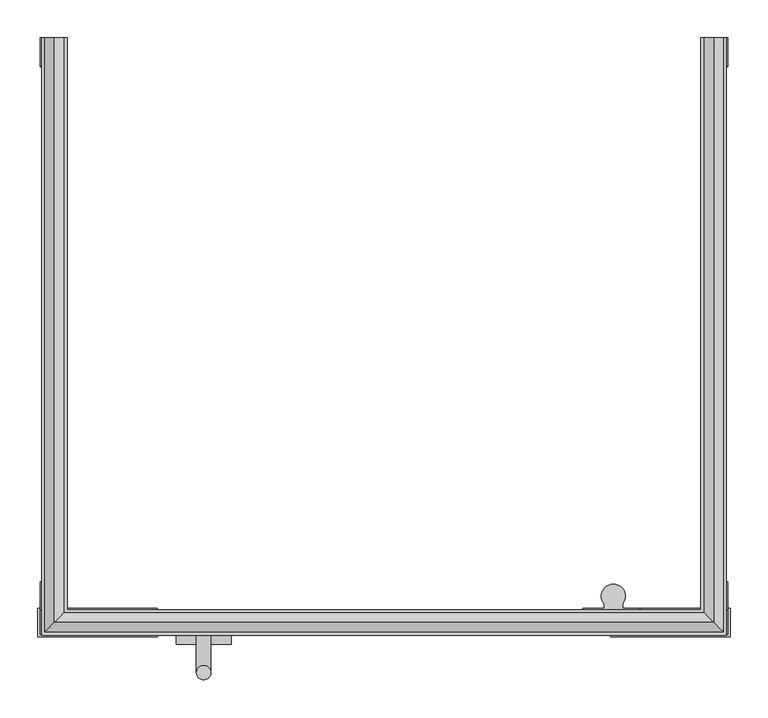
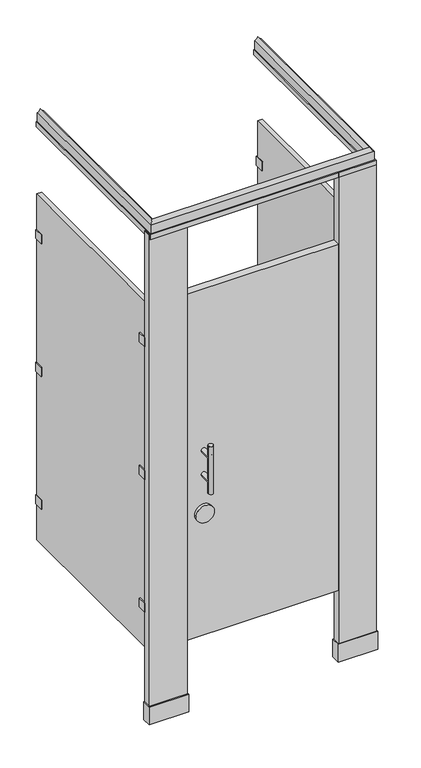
"""IFC4 building model written with IfcOpenShell, lengths in millimetres: proxy geometry, Toilet-Partition_Ironwood-Mfg_High-Pressure-Laminate : High Pressure Laminate - Headrail Braced - Flat Panel Door."""

from ifc_helpers import new_model, si_unit, point, frame, frame_2d, origin, origin_with_axes, place, context, project, spatial, polyline, circle_curve, ellipse_curve, trimmed, segment, composite_curve, outline, extrude, source, transform, mapped, element, save
from ifc_brep_helpers import plane_surface, cylinder_surface, revolved_surface, advanced_brep


def specialty_equipment_37ad36b8(model_context):
    return source(origin(), model_context, "Body", "SolidModel", [
        extrude(outline(polyline([(701.675, -758.825), (701.675, -796.925), (542.925, -796.925), (542.925, -758.825), (701.675, -758.825)])), origin_with_axes(), (0.0, 0.0, 1.0), 76.2),
        extrude(outline(polyline([(698.5, -762.0), (698.5, -793.75), (546.1, -793.75), (546.1, -762.0), (698.5, -762.0)])), origin_with_axes(), (0.0, 0.0, 1.0), 2082.8),
        extrude(outline(polyline([(-219.075, -758.825), (-60.325, -758.825), (-60.325, -796.925), (-219.075, -796.925), (-219.075, -758.825)])), origin_with_axes(), (0.0, 0.0, 1.0), 76.2),
        extrude(outline(polyline([(-215.9, -762.0), (-63.5, -762.0), (-63.5, -793.75), (-215.9, -793.75), (-215.9, -762.0)])), origin_with_axes(), (0.0, 0.0, 1.0), 2082.8),
        extrude(outline(polyline([(546.1, -793.75), (-63.5, -793.75), (-63.5, -762.0), (546.1, -762.0), (546.1, -793.75)])), frame((0.0, 0.0, 304.8), z_axis=(0.0, 0.0, 1.0), x_axis=(1.0, 0.0, 0.0)), (0.0, 0.0, 1.0), 1473.2),
        extrude(outline(composite_curve([segment(trimmed(circle_curve(frame_2d((827.0875, 1.5875)), 36.5125), [point((827.0875, -34.925))], [point((827.0875, 38.1))], False, "CARTESIAN"), True, "CONTINUOUS"), segment(trimmed(circle_curve(frame_2d((827.0875, 1.5875)), 36.5125), [point((827.0875, 38.1))], [point((827.0875, -34.925))], False, "CARTESIAN"), True, "CONTINUOUS")], self_intersect=False)), frame((0.0, -806.45, 0.0), z_axis=(0.0, 1.0, 0.0), x_axis=(0.0, 0.0, 1.0)), (0.0, 0.0, 1.0), 12.7),
        advanced_brep(
        [(-7.9375, -793.75, 1092.2), (11.1125, -793.75, 1092.2), (-7.9375, -793.75, 990.6), (11.1125, -793.75, 990.6), (11.1125, -844.55, 1092.2), (-7.9375, -844.55, 1092.2), (11.1125, -844.55, 990.6), (-7.9375, -844.55, 990.6), (-7.9375, -844.55, 1143.0), (11.1125, -844.55, 1143.0), (-7.9375, -844.55, 939.8), (11.1125, -844.55, 939.8)],
        [
            (0, 1, circle_curve(frame((1.5875, -793.75, 1092.2), z_axis=(0.0, 1.0, 0.0), x_axis=(1.0, 0.0, 0.0)), 9.525)),
            (1, 0, circle_curve(frame((1.5875, -793.75, 1092.2), z_axis=(0.0, 1.0, 0.0), x_axis=(1.0, 0.0, 0.0)), 9.525)),
            (2, 3, circle_curve(frame((1.5875, -793.75, 990.6), z_axis=(0.0, 1.0, 0.0), x_axis=(1.0, 0.0, 0.0)), 9.525)),
            (3, 2, circle_curve(frame((1.5875, -793.75, 990.6), z_axis=(0.0, 1.0, 0.0), x_axis=(1.0, 0.0, 0.0)), 9.525)),
            (1, 4),
            (4, 5, ellipse_curve(frame((1.5875, -844.55, 1092.2), z_axis=(0.0, 0.7071067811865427, 0.7071067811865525), x_axis=(0.0, -0.7071067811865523, 0.7071067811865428)), 13.4703842, 9.525)),
            (5, 0),
            (5, 4, ellipse_curve(frame((1.5875, -844.55, 1092.2), z_axis=(0.0, 0.7071067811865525, -0.7071067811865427), x_axis=(0.0, -0.7071067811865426, -0.7071067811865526)), 13.4703842, 9.525)),
            (3, 6),
            (6, 7, ellipse_curve(frame((1.5875, -844.55, 990.6), z_axis=(0.0, 0.7071067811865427, 0.7071067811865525), x_axis=(0.0, -0.7071067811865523, 0.7071067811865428)), 13.4703842, 9.525)),
            (7, 2),
            (7, 6, ellipse_curve(frame((1.5875, -844.55, 990.6), z_axis=(0.0, 0.7071067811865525, -0.7071067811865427), x_axis=(0.0, -0.7071067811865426, -0.7071067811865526)), 13.4703842, 9.525)),
            (8, 9, circle_curve(frame((1.5875, -844.55, 1143.0), z_axis=(0.0, 0.0, 1.0), x_axis=(1.0, 0.0, 0.0)), 9.525)),
            (9, 8, circle_curve(frame((1.5875, -844.55, 1143.0), z_axis=(0.0, 0.0, 1.0), x_axis=(1.0, 0.0, 0.0)), 9.525)),
            (10, 11, circle_curve(frame((1.5875, -844.55, 939.8), z_axis=(0.0, 0.0, -1.0), x_axis=(1.0, 0.0, 0.0)), 9.525)),
            (11, 10, circle_curve(frame((1.5875, -844.55, 939.8), z_axis=(0.0, 0.0, -1.0), x_axis=(1.0, 0.0, 0.0)), 9.525)),
            (8, 5),
            (5, 7),
            (7, 10),
            (11, 6),
            (6, 4),
            (4, 9),
        ],
        [
            plane_surface(frame((11.1125, -793.75, 1092.2), z_axis=(0.0, 1.0, 0.0), x_axis=(0.0, 0.0, -1.0))),
            cylinder_surface(frame((1.5875, -793.75, 1092.2), z_axis=(0.0, -1.0, 0.0), x_axis=(1.0, 0.0, 0.0)), 9.525),
            cylinder_surface(frame((1.5875, -793.75, 990.6), z_axis=(0.0, -1.0, 0.0), x_axis=(1.0, 0.0, 0.0)), 9.525),
            plane_surface(frame((11.1125, -844.55, 1143.0), z_axis=(0.0, 0.0, 1.0), x_axis=(0.0, 1.0, 0.0))),
            plane_surface(frame((11.1125, -844.55, 939.8), z_axis=(0.0, 0.0, -1.0), x_axis=(0.0, -1.0, 0.0))),
            cylinder_surface(frame((1.5875, -844.55, 939.8), z_axis=(0.0, 0.0, 1.0), x_axis=(1.0, 0.0, 0.0)), 9.525),
        ],
        [
            (0, [[1, 2]]),
            (0, [[3, 4]]),
            (1, [[-2, 5, 6, 7]]),
            (1, [[-1, -7, 8, -5]]),
            (2, [[-4, 9, 10, 11]]),
            (2, [[-3, -11, 12, -9]]),
            (3, [[13, 14]]),
            (4, [[15, 16]]),
            (5, [[-13, 17, 18, 19, -16, 20, 21, 22]]),
            (5, [[-14, -22, -8, -17]]),
            (5, [[-15, -19, -10, -20]]),
            (5, [[-18, -6, -21, -12]]),
        ],
    ),
        extrude(outline(composite_curve([segment(polyline([(581.3737081, -762.0), (505.1737081, -762.0), (505.1737081, -758.825), (533.7487081, -758.825), (533.7487081, -752.9581331)]), True, "CONTINUOUS"), segment(trimmed(circle_curve(frame_2d((546.1, -742.8902139)), 15.9347861), [point((533.7487081, -752.9581331))], [point((558.4512919, -752.9581331))], False, "CARTESIAN"), True, "CONTINUOUS"), segment(polyline([(558.4512919, -752.9581331), (558.4512919, -758.825), (581.3737081, -758.825), (581.3737081, -762.0)]), True, "CONTINUOUS")], self_intersect=False)), frame((0.0, 0.0, 1574.8), z_axis=(0.0, 0.0, 1.0), x_axis=(1.0, 0.0, 0.0)), (0.0, 0.0, 1.0), 63.5),
        extrude(outline(composite_curve([segment(polyline([(581.3737081, -762.0), (505.1737081, -762.0), (505.1737081, -758.825), (533.7487081, -758.825), (533.7487081, -752.9581331)]), True, "CONTINUOUS"), segment(trimmed(circle_curve(frame_2d((546.1, -742.8902139)), 15.9347861), [point((533.7487081, -752.9581331))], [point((558.4512919, -752.9581331))], False, "CARTESIAN"), True, "CONTINUOUS"), segment(polyline([(558.4512919, -752.9581331), (558.4512919, -758.825), (581.3737081, -758.825), (581.3737081, -762.0)]), True, "CONTINUOUS")], self_intersect=False)), frame((0.0, 0.0, 1009.6500001), z_axis=(0.0, 0.0, 1.0), x_axis=(1.0, 0.0, 0.0)), (0.0, 0.0, 1.0), 63.5),
        extrude(outline(composite_curve([segment(polyline([(581.3737081, -762.0), (505.1737081, -762.0), (505.1737081, -758.825), (533.7487081, -758.825), (533.7487081, -752.9581331)]), True, "CONTINUOUS"), segment(trimmed(circle_curve(frame_2d((546.1, -742.8902139)), 15.9347861), [point((533.7487081, -752.9581331))], [point((558.4512919, -752.9581331))], False, "CARTESIAN"), True, "CONTINUOUS"), segment(polyline([(558.4512919, -752.9581331), (558.4512919, -758.825), (581.3737081, -758.825), (581.3737081, -762.0)]), True, "CONTINUOUS")], self_intersect=False)), frame((0.0, 0.0, 444.5), z_axis=(0.0, 0.0, 1.0), x_axis=(1.0, 0.0, 0.0)), (0.0, 0.0, 1.0), 63.5),
        extrude(outline(polyline([(676.148, -723.9), (676.148, -758.825), (695.198, -758.825), (695.198, -723.9), (698.373, -723.9), (698.373, -762.0), (672.973, -762.0), (672.973, -723.9), (676.148, -723.9)])), frame((0.0, 0.0, 1587.8188137), z_axis=(0.0, 0.0, 1.0), x_axis=(1.0, 0.0, 0.0)), (0.0, 0.0, 1.0), 38.1),
        extrude(outline(polyline([(676.148, -38.1), (672.973, -38.1), (672.973, 0.0), (698.373, 0.0), (698.373, -38.1), (695.198, -38.1), (695.198, -3.175), (676.148, -3.175), (676.148, -38.1)])), frame((0.0, 0.0, 1587.8188137), z_axis=(0.0, 0.0, 1.0), x_axis=(1.0, 0.0, 0.0)), (0.0, 0.0, 1.0), 38.1),
        extrude(outline(polyline([(676.148, -723.9), (676.148, -758.825), (695.198, -758.825), (695.198, -723.9), (698.373, -723.9), (698.373, -762.0), (672.973, -762.0), (672.973, -723.9), (676.148, -723.9)])), frame((0.0, 0.0, 1022.35), z_axis=(0.0, 0.0, 1.0), x_axis=(1.0, 0.0, 0.0)), (0.0, 0.0, 1.0), 38.1),
        extrude(outline(polyline([(676.148, -38.1), (672.973, -38.1), (672.973, 0.0), (698.373, 0.0), (698.373, -38.1), (695.198, -38.1), (695.198, -3.175), (676.148, -3.175), (676.148, -38.1)])), frame((0.0, 0.0, 1022.35), z_axis=(0.0, 0.0, 1.0), x_axis=(1.0, 0.0, 0.0)), (0.0, 0.0, 1.0), 38.1),
        extrude(outline(polyline([(676.148, -723.9), (676.148, -758.825), (695.198, -758.825), (695.198, -723.9), (698.373, -723.9), (698.373, -762.0), (672.973, -762.0), (672.973, -723.9), (676.148, -723.9)])), frame((0.0, 0.0, 457.2), z_axis=(0.0, 0.0, 1.0), x_axis=(1.0, 0.0, 0.0)), (0.0, 0.0, 1.0), 38.1),
        extrude(outline(polyline([(676.148, -38.1), (672.973, -38.1), (672.973, 0.0), (698.373, 0.0), (698.373, -38.1), (695.198, -38.1), (695.198, -3.175), (676.148, -3.175), (676.148, -38.1)])), frame((0.0, 0.0, 457.2), z_axis=(0.0, 0.0, 1.0), x_axis=(1.0, 0.0, 0.0)), (0.0, 0.0, 1.0), 38.1),
        extrude(outline(polyline([(-212.598, -723.9), (-212.598, -758.825), (-193.548, -758.825), (-193.548, -723.9), (-190.373, -723.9), (-190.373, -762.0), (-215.773, -762.0), (-215.773, -723.9), (-212.598, -723.9)])), frame((0.0, 0.0, 1587.8188137), z_axis=(0.0, 0.0, 1.0), x_axis=(1.0, 0.0, 0.0)), (0.0, 0.0, 1.0), 38.1),
        extrude(outline(polyline([(-212.598, -38.1), (-215.773, -38.1), (-215.773, 0.0), (-190.373, 0.0), (-190.373, -38.1), (-193.548, -38.1), (-193.548, -3.175), (-212.598, -3.175), (-212.598, -38.1)])), frame((0.0, 0.0, 1587.8188137), z_axis=(0.0, 0.0, 1.0), x_axis=(1.0, 0.0, 0.0)), (0.0, 0.0, 1.0), 38.1),
        extrude(outline(polyline([(-212.598, -723.9), (-212.598, -758.825), (-193.548, -758.825), (-193.548, -723.9), (-190.373, -723.9), (-190.373, -762.0), (-215.773, -762.0), (-215.773, -723.9), (-212.598, -723.9)])), frame((0.0, 0.0, 1022.35), z_axis=(0.0, 0.0, 1.0), x_axis=(1.0, 0.0, 0.0)), (0.0, 0.0, 1.0), 38.1),
        extrude(outline(polyline([(-212.598, -38.1), (-215.773, -38.1), (-215.773, 0.0), (-190.373, 0.0), (-190.373, -38.1), (-193.548, -38.1), (-193.548, -3.175), (-212.598, -3.175), (-212.598, -38.1)])), frame((0.0, 0.0, 1022.35), z_axis=(0.0, 0.0, 1.0), x_axis=(1.0, 0.0, 0.0)), (0.0, 0.0, 1.0), 38.1),
        extrude(outline(polyline([(-212.598, -723.9), (-212.598, -758.825), (-193.548, -758.825), (-193.548, -723.9), (-190.373, -723.9), (-190.373, -762.0), (-215.773, -762.0), (-215.773, -723.9), (-212.598, -723.9)])), frame((0.0, 0.0, 457.2), z_axis=(0.0, 0.0, 1.0), x_axis=(1.0, 0.0, 0.0)), (0.0, 0.0, 1.0), 38.1),
        extrude(outline(polyline([(-212.598, -38.1), (-215.773, -38.1), (-215.773, 0.0), (-190.373, 0.0), (-190.373, -38.1), (-193.548, -38.1), (-193.548, -3.175), (-212.598, -3.175), (-212.598, -38.1)])), frame((0.0, 0.0, 457.2), z_axis=(0.0, 0.0, 1.0), x_axis=(1.0, 0.0, 0.0)), (0.0, 0.0, 1.0), 38.1),
        extrude(outline(polyline([(-193.548, -3.175), (-193.548, -758.825), (-212.598, -758.825), (-212.598, -3.175), (-193.548, -3.175)])), frame((0.0, 0.0, 304.8), z_axis=(0.0, 0.0, 1.0), x_axis=(1.0, 0.0, 0.0)), (0.0, 0.0, 1.0), 1473.2),
        extrude(outline(polyline([(695.198, -3.175), (695.198, -758.825), (676.148, -758.825), (676.148, -3.175), (695.198, -3.175)])), frame((0.0, 0.0, 304.8), z_axis=(0.0, 0.0, 1.0), x_axis=(1.0, 0.0, 0.0)), (0.0, 0.0, 1.0), 1473.2),
        advanced_brep(
        [(663.448, 0.0, 2063.75), (662.257375, 0.0, 2063.75), (662.257375, 0.0, 2083.990625), (666.623, 0.0, 2083.990625), (666.623, 0.0, 2120.9), (679.323, 0.0, 2133.6), (692.023, 0.0, 2120.9), (692.023, 0.0, 2083.990625), (696.388625, 0.0, 2083.990625), (696.388625, 0.0, 2063.75), (695.198, 0.0, 2063.75), (695.198, 0.0, 2082.8), (663.448, 0.0, 2082.8), (667.813625, 0.0, 2119.709375), (667.813625, 0.0, 2083.990625), (690.832375, 0.0, 2083.990625), (690.832375, 0.0, 2119.709375), (679.323, 0.0, 2131.21875), (663.448, -762.0, 2063.75), (663.448, -762.0, 2082.8), (-180.848, -762.0, 2082.8), (-180.848, -762.0, 2063.75), (695.198, -793.75, 2082.8), (695.198, -793.75, 2063.75), (-212.598, -793.75, 2063.75), (-212.598, -793.75, 2082.8), (696.388625, -794.940625, 2063.75), (696.388625, -794.940625, 2083.990625), (-213.788625, -794.940625, 2083.990625), (-213.788625, -794.940625, 2063.75), (692.023, -790.575, 2083.990625), (692.023, -790.575, 2120.9), (-209.423, -790.575, 2120.9), (-209.423, -790.575, 2083.990625), (679.323, -777.875, 2133.6), (-196.723, -777.875, 2133.6), (666.623, -765.175, 2120.9), (-184.023, -765.175, 2120.9), (666.623, -765.175, 2083.990625), (-184.023, -765.175, 2083.990625), (662.257375, -760.809375, 2083.990625), (662.257375, -760.809375, 2063.75), (-179.657375, -760.809375, 2063.75), (-179.657375, -760.809375, 2083.990625), (667.813625, -766.365625, 2119.709375), (679.323, -777.875, 2131.21875), (-196.723, -777.875, 2131.21875), (-185.213625, -766.365625, 2119.709375), (690.832375, -789.384375, 2119.709375), (-208.232375, -789.384375, 2119.709375), (690.832375, -789.384375, 2083.990625), (-208.232375, -789.384375, 2083.990625), (667.813625, -766.365625, 2083.990625), (-185.213625, -766.365625, 2083.990625), (-180.848, 0.0, 2063.75), (-180.848, 0.0, 2082.8), (-212.598, 0.0, 2082.8), (-212.598, 0.0, 2063.75), (-213.788625, 0.0, 2063.75), (-213.788625, 0.0, 2083.990625), (-209.423, 0.0, 2083.990625), (-209.423, 0.0, 2120.9), (-196.723, 0.0, 2133.6), (-184.023, 0.0, 2120.9), (-184.023, 0.0, 2083.990625), (-179.657375, 0.0, 2083.990625), (-179.657375, 0.0, 2063.75), (-185.213625, 0.0, 2119.709375), (-196.723, 0.0, 2131.21875), (-208.232375, 0.0, 2119.709375), (-208.232375, 0.0, 2083.990625), (-185.213625, 0.0, 2083.990625)],
        [
            (0, 1),
            (1, 2),
            (2, 3),
            (3, 4),
            (4, 5, circle_curve(frame((649.9091809, 0.0, 2150.3138191), z_axis=(0.0, -1.0, 0.0), x_axis=(1.0, 0.0, 0.0)), 33.8308218)),
            (5, 6, circle_curve(frame((708.7368191, 0.0, 2150.3138191), z_axis=(0.0, -1.0, 0.0), x_axis=(1.0, 0.0, 0.0)), 33.8308218)),
            (6, 7),
            (7, 8),
            (8, 9),
            (9, 10),
            (10, 11),
            (11, 12),
            (12, 0),
            (13, 14),
            (14, 15),
            (15, 16),
            (16, 17, circle_curve(frame((709.9824574, 0.0, 2150.3688324), z_axis=(0.0, 1.0, 0.0), x_axis=(1.0, 0.0, 0.0)), 36.1486927)),
            (17, 13, circle_curve(frame((648.6635426, 0.0, 2150.3688324), z_axis=(0.0, 1.0, 0.0), x_axis=(1.0, 0.0, 0.0)), 36.1486927)),
            (18, 19),
            (19, 20),
            (20, 21),
            (21, 18),
            (22, 23),
            (23, 24),
            (24, 25),
            (25, 22),
            (26, 27),
            (27, 28),
            (28, 29),
            (29, 26),
            (30, 31),
            (31, 32),
            (32, 33),
            (33, 30),
            (31, 34, ellipse_curve(frame((708.7368191, -807.2888191, 2150.3138191), z_axis=(0.7071067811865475, 0.7071067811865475, 0.0), x_axis=(-0.7071067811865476, 0.7071067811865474, 0.0)), 47.844007, 33.8308218)),
            (34, 35),
            (35, 32, ellipse_curve(frame((-226.1368191, -807.2888191, 2150.3138191), z_axis=(-0.7071067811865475, 0.7071067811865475, 0.0), x_axis=(-0.7071067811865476, -0.7071067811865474, 0.0)), 47.844007, 33.8308218)),
            (34, 36, ellipse_curve(frame((649.9091809, -748.4611809, 2150.3138191), z_axis=(0.7071067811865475, 0.7071067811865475, 0.0), x_axis=(-0.7071067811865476, 0.7071067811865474, 0.0)), 47.844007, 33.8308218)),
            (36, 37),
            (37, 35, ellipse_curve(frame((-167.3091809, -748.4611809, 2150.3138191), z_axis=(-0.7071067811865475, 0.7071067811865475, 0.0), x_axis=(-0.7071067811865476, -0.7071067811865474, 0.0)), 47.844007, 33.8308218)),
            (36, 38),
            (38, 39),
            (39, 37),
            (40, 41),
            (41, 42),
            (42, 43),
            (43, 40),
            (44, 45, ellipse_curve(frame((648.6635426, -747.2155426, 2150.3688324), z_axis=(-0.7071067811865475, -0.7071067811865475, 0.0), x_axis=(0.7071067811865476, -0.7071067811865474, 0.0)), 51.1219715, 36.1486927)),
            (45, 46),
            (46, 47, ellipse_curve(frame((-166.0635426, -747.2155426, 2150.3688324), z_axis=(0.7071067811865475, -0.7071067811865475, 0.0), x_axis=(0.7071067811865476, 0.7071067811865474, 0.0)), 51.1219715, 36.1486927)),
            (47, 44),
            (45, 48, ellipse_curve(frame((709.9824574, -808.5344574, 2150.3688324), z_axis=(-0.7071067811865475, -0.7071067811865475, 0.0), x_axis=(0.7071067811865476, -0.7071067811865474, 0.0)), 51.1219715, 36.1486927)),
            (48, 49),
            (49, 46, ellipse_curve(frame((-227.3824574, -808.5344574, 2150.3688324), z_axis=(0.7071067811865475, -0.7071067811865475, 0.0), x_axis=(0.7071067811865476, 0.7071067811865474, 0.0)), 51.1219715, 36.1486927)),
            (48, 50),
            (50, 51),
            (51, 49),
            (52, 44),
            (47, 53),
            (53, 52),
            (54, 55),
            (55, 56),
            (56, 57),
            (57, 58),
            (58, 59),
            (59, 60),
            (60, 61),
            (61, 62, circle_curve(frame((-226.1368191, 0.0, 2150.3138191), z_axis=(0.0, -1.0, 0.0), x_axis=(-1.0, 0.0, 0.0)), 33.8308218)),
            (62, 63, circle_curve(frame((-167.3091809, 0.0, 2150.3138191), z_axis=(0.0, -1.0, 0.0), x_axis=(-1.0, 0.0, 0.0)), 33.8308218)),
            (63, 64),
            (64, 65),
            (65, 66),
            (66, 54),
            (67, 68, circle_curve(frame((-166.0635426, 0.0, 2150.3688324), z_axis=(0.0, 1.0, 0.0), x_axis=(-1.0, 0.0, 0.0)), 36.1486927)),
            (68, 69, circle_curve(frame((-227.3824574, 0.0, 2150.3688324), z_axis=(0.0, 1.0, 0.0), x_axis=(-1.0, 0.0, 0.0)), 36.1486927)),
            (69, 70),
            (70, 71),
            (71, 67),
            (20, 55),
            (54, 21),
            (24, 57),
            (56, 25),
            (28, 59),
            (58, 29),
            (32, 61),
            (60, 33),
            (35, 62),
            (37, 63),
            (39, 64),
            (42, 66),
            (65, 43),
            (46, 68),
            (67, 47),
            (49, 69),
            (51, 70),
            (71, 53),
            (0, 18),
            (41, 1),
            (40, 2),
            (38, 3),
            (36, 4),
            (34, 5),
            (31, 6),
            (30, 7),
            (27, 8),
            (26, 9),
            (23, 10),
            (22, 11),
            (19, 12),
            (13, 44),
            (52, 14),
            (50, 15),
            (48, 16),
            (45, 17),
        ],
        [
            plane_surface(frame((695.198, 0.0, 0.0), z_axis=(0.0, 1.0, 0.0), x_axis=(0.0, 0.0, 1.0))),
            plane_surface(frame((663.448, -762.0, 2082.8), z_axis=(0.0, -1.0, 0.0), x_axis=(-1.0, 0.0, 0.0))),
            plane_surface(frame((695.198, -793.75, 2063.75), z_axis=(0.0, 1.0, 0.0), x_axis=(-1.0, 0.0, 0.0))),
            plane_surface(frame((696.388625, -794.940625, 2083.990625), z_axis=(0.0, -1.0, 0.0), x_axis=(-1.0, 0.0, 0.0))),
            plane_surface(frame((692.023, -790.575, 2120.9), z_axis=(0.0, -1.0, 0.0), x_axis=(-1.0, 0.0, 0.0))),
            revolved_surface(polyline([(-259.9676408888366, -841.1196408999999, 2150.3138191), (742.5676408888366, -841.1196408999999, 2150.3138191)]), (695.198, -807.2888191, 2150.3138191), (-1.0, 0.0, 0.0)),
            revolved_surface(polyline([(-201.1400026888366, -782.2920027, 2150.3138191), (683.7400026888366, -782.2920027, 2150.3138191)]), (695.198, -748.4611809, 2150.3138191), (-1.0, 0.0, 0.0)),
            plane_surface(frame((666.623, -765.175, 2083.990625), z_axis=(0.0, 1.0, 0.0), x_axis=(-1.0, 0.0, 0.0))),
            plane_surface(frame((662.257375, -760.809375, 2063.75), z_axis=(0.0, 1.0, 0.0), x_axis=(-1.0, 0.0, 0.0))),
            cylinder_surface(frame((695.198, -747.2155426, 2150.3688324), z_axis=(1.0, 0.0, 0.0), x_axis=(0.0, -1.0, 0.0)), 36.1486927),
            cylinder_surface(frame((695.198, -808.5344574, 2150.3688324), z_axis=(1.0, 0.0, 0.0), x_axis=(0.0, -1.0, 0.0)), 36.1486927),
            plane_surface(frame((690.832375, -789.384375, 2083.990625), z_axis=(0.0, 1.0, 0.0), x_axis=(-1.0, 0.0, 0.0))),
            plane_surface(frame((667.813625, -766.365625, 2119.709375), z_axis=(0.0, -1.0, 0.0), x_axis=(-1.0, 0.0, 0.0))),
            plane_surface(frame((-212.598, 0.0, 0.0), z_axis=(0.0, 1.0, 0.0), x_axis=(0.0, 0.0, 1.0))),
            plane_surface(frame((-180.848, -762.0, 2082.8), z_axis=(-1.0, 0.0, 0.0), x_axis=(0.0, 1.0, 0.0))),
            plane_surface(frame((-212.598, -793.75, 2063.75), z_axis=(1.0, 0.0, 0.0), x_axis=(0.0, 1.0, 0.0))),
            plane_surface(frame((-213.788625, -794.940625, 2083.990625), z_axis=(-1.0, 0.0, 0.0), x_axis=(0.0, 1.0, 0.0))),
            plane_surface(frame((-209.423, -790.575, 2120.9), z_axis=(-1.0, 0.0, 0.0), x_axis=(0.0, 1.0, 0.0))),
            revolved_surface(polyline([(-259.9676409, 0.0, 2150.3138191), (-259.9676409, -841.1196408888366, 2150.3138191)]), (-226.1368191, -793.75, 2150.3138191), (0.0, 1.0, 0.0)),
            revolved_surface(polyline([(-201.1400027, 0.0, 2150.3138191), (-201.1400027, -782.2920026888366, 2150.3138191)]), (-167.3091809, -793.75, 2150.3138191), (0.0, 1.0, 0.0)),
            plane_surface(frame((-184.023, -765.175, 2083.990625), z_axis=(1.0, 0.0, 0.0), x_axis=(0.0, 1.0, 0.0))),
            plane_surface(frame((-179.657375, -760.809375, 2063.75), z_axis=(1.0, 0.0, 0.0), x_axis=(0.0, 1.0, 0.0))),
            cylinder_surface(frame((-166.0635426, -793.75, 2150.3688324), z_axis=(0.0, -1.0, 0.0), x_axis=(-1.0, 0.0, 0.0)), 36.1486927),
            cylinder_surface(frame((-227.3824574, -793.75, 2150.3688324), z_axis=(0.0, -1.0, 0.0), x_axis=(-1.0, 0.0, 0.0)), 36.1486927),
            plane_surface(frame((-208.232375, -789.384375, 2083.990625), z_axis=(1.0, 0.0, 0.0), x_axis=(0.0, 1.0, 0.0))),
            plane_surface(frame((-185.213625, -766.365625, 2119.709375), z_axis=(-1.0, 0.0, 0.0), x_axis=(0.0, 1.0, 0.0))),
            plane_surface(frame((663.448, 0.0, 2063.75), z_axis=(0.0, 0.0, -1.0), x_axis=(0.0, -1.0, 0.0))),
            plane_surface(frame((662.257375, 0.0, 2063.75), z_axis=(-1.0, 0.0, 0.0), x_axis=(0.0, -1.0, 0.0))),
            plane_surface(frame((662.257375, 0.0, 2083.990625), z_axis=(0.0, 0.0, 1.0), x_axis=(0.0, -1.0, 0.0))),
            plane_surface(frame((666.623, 0.0, 2083.990625), z_axis=(-1.0, 0.0, 0.0), x_axis=(0.0, -1.0, 0.0))),
            revolved_surface(polyline([(683.7400027, -782.2920026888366, 2150.3138191), (683.7400027, 0.0, 2150.3138191)]), (649.9091809, 0.0, 2150.3138191), (0.0, -1.0, 0.0)),
            revolved_surface(polyline([(742.5676409, -841.1196408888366, 2150.3138191), (742.5676409, 0.0, 2150.3138191)]), (708.7368191, 0.0, 2150.3138191), (0.0, -1.0, 0.0)),
            plane_surface(frame((692.023, 0.0, 2120.9), z_axis=(1.0, 0.0, 0.0), x_axis=(0.0, -1.0, 0.0))),
            plane_surface(frame((692.023, 0.0, 2083.990625), z_axis=(0.0, 0.0, 1.0), x_axis=(0.0, -1.0, 0.0))),
            plane_surface(frame((696.388625, 0.0, 2083.990625), z_axis=(1.0, 0.0, 0.0), x_axis=(0.0, -1.0, 0.0))),
            plane_surface(frame((696.388625, 0.0, 2063.75), z_axis=(0.0, 0.0, -1.0), x_axis=(0.0, -1.0, 0.0))),
            plane_surface(frame((695.198, 0.0, 2063.75), z_axis=(-1.0, 0.0, 0.0), x_axis=(0.0, -1.0, 0.0))),
            plane_surface(frame((695.198, 0.0, 2082.8), z_axis=(0.0, 0.0, -1.0), x_axis=(0.0, -1.0, 0.0))),
            plane_surface(frame((663.448, 0.0, 2082.8), z_axis=(1.0, 0.0, 0.0), x_axis=(0.0, -1.0, 0.0))),
            plane_surface(frame((667.813625, 0.0, 2119.709375), z_axis=(1.0, 0.0, 0.0), x_axis=(0.0, -1.0, 0.0))),
            plane_surface(frame((667.813625, 0.0, 2083.990625), z_axis=(0.0, 0.0, 1.0), x_axis=(0.0, -1.0, 0.0))),
            plane_surface(frame((690.832375, 0.0, 2083.990625), z_axis=(-1.0, 0.0, 0.0), x_axis=(0.0, -1.0, 0.0))),
            cylinder_surface(frame((709.9824574, 0.0, 2150.3688324), z_axis=(0.0, 1.0, 0.0), x_axis=(1.0, 0.0, 0.0)), 36.1486927),
            cylinder_surface(frame((648.6635426, 0.0, 2150.3688324), z_axis=(0.0, 1.0, 0.0), x_axis=(1.0, 0.0, 0.0)), 36.1486927),
        ],
        [
            (0, [[1, 2, 3, 4, 5, 6, 7, 8, 9, 10, 11, 12, 13], [14, 15, 16, 17, 18]]),
            (1, [[19, 20, 21, 22]]),
            (2, [[23, 24, 25, 26]]),
            (3, [[27, 28, 29, 30]]),
            (4, [[31, 32, 33, 34]]),
            (5, [[35, 36, 37, -32]]),
            (6, [[38, 39, 40, -36]]),
            (7, [[41, 42, 43, -39]]),
            (8, [[44, 45, 46, 47]]),
            (9, [[48, 49, 50, 51]]),
            (10, [[52, 53, 54, -49]]),
            (11, [[55, 56, 57, -53]]),
            (12, [[58, -51, 59, 60]]),
            (13, [[61, 62, 63, 64, 65, 66, 67, 68, 69, 70, 71, 72, 73], [74, 75, 76, 77, 78]]),
            (14, [[-21, 79, -61, 80]]),
            (15, [[-25, 81, -63, 82]]),
            (16, [[-29, 83, -65, 84]]),
            (17, [[-33, 85, -67, 86]]),
            (18, [[-37, 87, -68, -85]]),
            (19, [[-40, 88, -69, -87]]),
            (20, [[-43, 89, -70, -88]]),
            (21, [[-46, 90, -72, 91]]),
            (22, [[-50, 92, -74, 93]]),
            (23, [[-54, 94, -75, -92]]),
            (24, [[-57, 95, -76, -94]]),
            (25, [[-59, -93, -78, 96]]),
            (26, [[-1, 97, -22, -80, -73, -90, -45, 98]]),
            (27, [[-2, -98, -44, 99]]),
            (28, [[-3, -99, -47, -91, -71, -89, -42, 100]]),
            (29, [[-4, -100, -41, 101]]),
            (30, [[-5, -101, -38, 102]]),
            (31, [[-6, -102, -35, 103]]),
            (32, [[-7, -103, -31, 104]]),
            (33, [[-8, -104, -34, -86, -66, -83, -28, 105]]),
            (34, [[-9, -105, -27, 106]]),
            (35, [[-10, -106, -30, -84, -64, -81, -24, 107]]),
            (36, [[-11, -107, -23, 108]]),
            (37, [[-12, -108, -26, -82, -62, -79, -20, 109]]),
            (38, [[-13, -109, -19, -97]]),
            (39, [[-14, 110, -58, 111]]),
            (40, [[-15, -111, -60, -96, -77, -95, -56, 112]]),
            (41, [[-16, -112, -55, 113]]),
            (42, [[-17, -113, -52, 114]]),
            (43, [[-18, -114, -48, -110]]),
        ],
    ),
    ])


if __name__ == "__main__":
    model = new_model("IFC4")
    model_context = context("Model", 3, world=origin())
    ifc_project = project(units=[si_unit("LENGTHUNIT", "METRE", prefix="MILLI")], contexts=[model_context])
    site = spatial("IfcSite", under=ifc_project)
    building = spatial("IfcBuilding", under=site)
    placement = place(None, origin())
    specialty_equipment_shape = specialty_equipment_37ad36b8(model_context)
    element("IfcBuildingElementProxy", 1, Name="Toilet-Partition_Ironwood-Mfg_High-Pressure-Laminate : High Pressure Laminate - Headrail Braced - Flat Panel Door", ObjectType="Toilet-Partition_Ironwood-Mfg_High-Pressure-Laminate : High Pressure Laminate - Headrail Braced - Flat Panel Door", at=placement, inside=building, context=model_context, shape_type="MappedRepresentation", body=[
        mapped(specialty_equipment_shape, transform((0.0, 0.0, 0.0), x_axis=(1.0, 0.0, 0.0), y_axis=(0.0, 1.0, 0.0), z_axis=(0.0, 0.0, 1.0))),
    ])
    save(model, "model.ifc")
